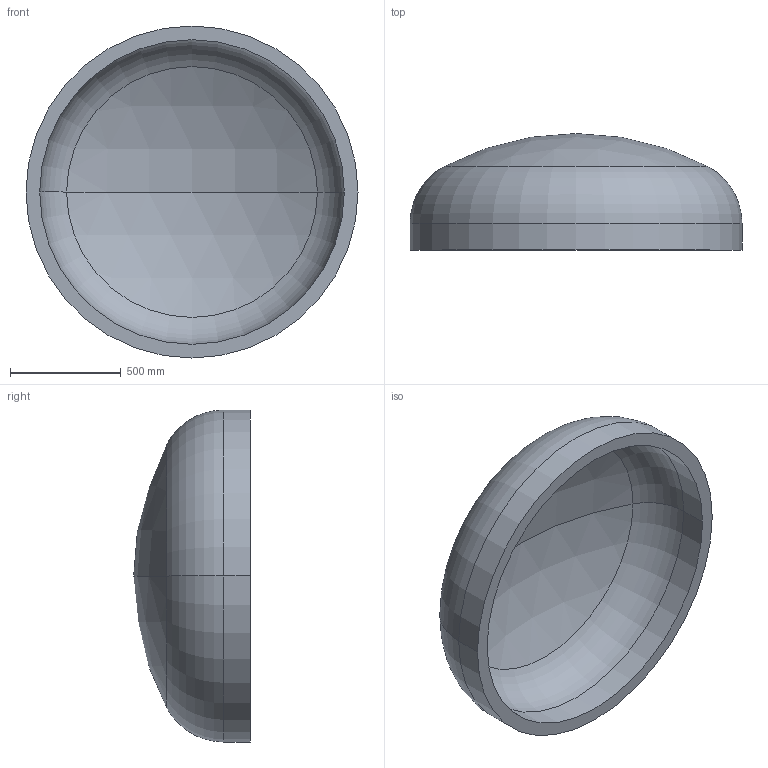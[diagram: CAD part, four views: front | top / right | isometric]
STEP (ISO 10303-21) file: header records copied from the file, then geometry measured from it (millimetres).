
FILE_DESCRIPTION (( 'STEP AP203' ), '1' );
FILE_NAME ('DIN 28013 Korbbogenform_-_Boden DIN 28013 - 1500 x 120 - I - s=62.step', '2016-07-01T10:51:07', ( '' ), ( '' ), 'SwSTEP 2.0', 'SolidWorks 2013', '' );
FILE_SCHEMA (( 'CONFIG_CONTROL_DESIGN' ));
Length unit declared in the file: millimetre
Products named in the file (1): DIN 28013 Korbbogenform_-_Boden DIN 28013 - 1500 x 120 - I - s=62
Bounding box: 1500 x 526.94 x 1500 mm (x, y, z)
Volume: 177323437.8 mm3; surface area: 6008252.1 mm2
Topology: 1 solids, 1 shells, 13 faces, 24 edges, 14 vertices
Faces by surface type: torus 4, cylinder 4, sphere 4, plane 1
Entity records: 407 total; most frequent: DIRECTION 72, CARTESIAN_POINT 52, ORIENTED_EDGE 48, AXIS2_PLACEMENT_3D 34, EDGE_CURVE 24, CIRCLE 20, VERTEX_POINT 14, EDGE_LOOP 14
